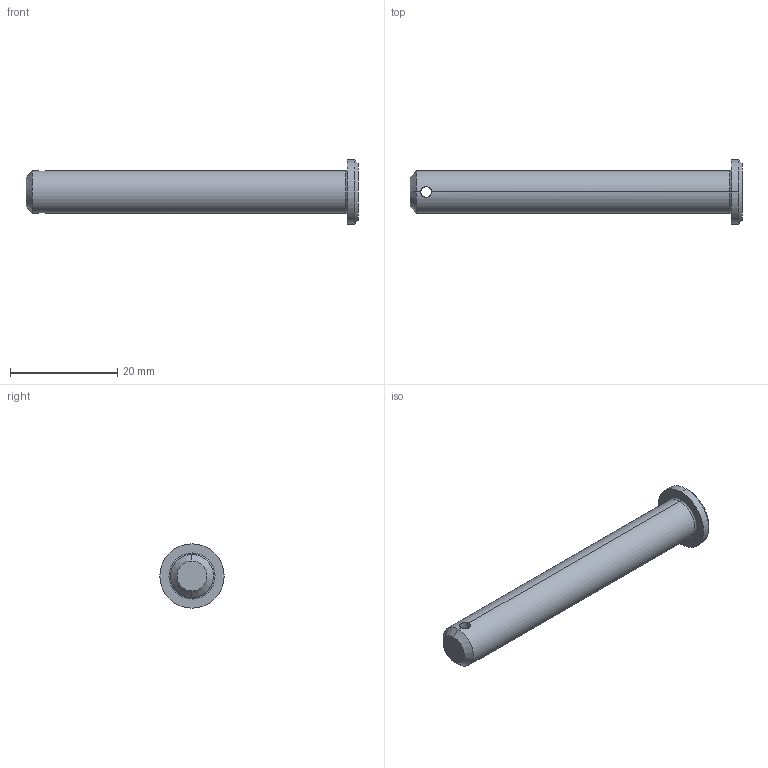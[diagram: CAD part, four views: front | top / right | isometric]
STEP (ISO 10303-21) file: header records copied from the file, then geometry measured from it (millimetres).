
FILE_DESCRIPTION (( 'STEP AP203' ), '1' );
FILE_NAME ('Wiberger-sms2360_8x60.step', '2012-10-09T08:59:12', ( 'Magnus' ), ( 'Wiberger' ), 'SwSTEP 2.0', 'SolidWorks 2011', '' );
FILE_SCHEMA (( 'CONFIG_CONTROL_DESIGN' ));
Length unit declared in the file: millimetre
Products named in the file (1): Wiberger-sms2360_8x60
Bounding box: 62 x 12 x 12 mm (x, y, z)
Volume: 3194.8 mm3; surface area: 1816.2 mm2
Topology: 1 solids, 1 shells, 15 faces, 32 edges, 18 vertices
Faces by surface type: cylinder 6, cone 4, plane 3, torus 2
Entity records: 543 total; most frequent: CARTESIAN_POINT 134, DIRECTION 76, ORIENTED_EDGE 64, EDGE_CURVE 32, AXIS2_PLACEMENT_3D 32, VERTEX_POINT 18, EDGE_LOOP 16, CIRCLE 16
